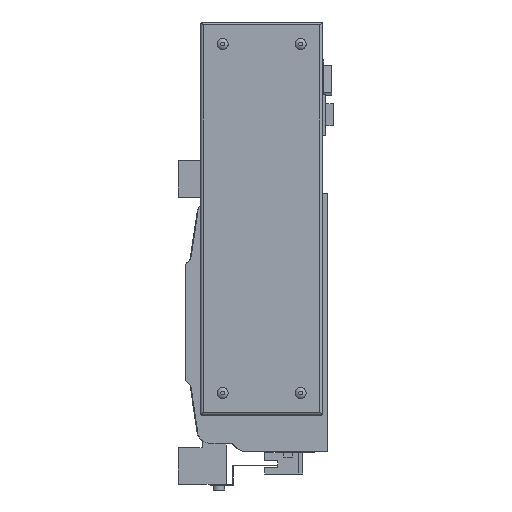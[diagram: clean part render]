
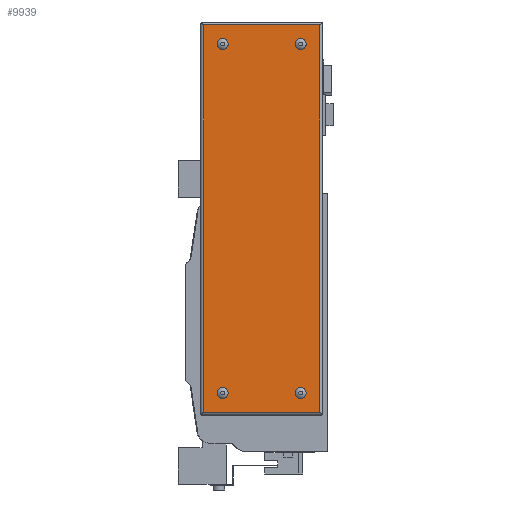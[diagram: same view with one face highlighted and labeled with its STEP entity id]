
A CAD part, left-side view. The second image highlights one B-rep face of the part: STEP entity #9939.
In plain terms, the highlighted planar face has unit normal (-1, 0, 0).
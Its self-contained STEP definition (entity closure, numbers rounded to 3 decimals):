
#287=PLANE('',#10698);
#999=LINE('',#15299,#2089);
#1000=LINE('',#15302,#2090);
#1001=LINE('',#15304,#2091);
#1002=LINE('',#15306,#2092);
#2089=VECTOR('',#12394,1000.);
#2090=VECTOR('',#12395,1000.);
#2091=VECTOR('',#12396,1000.);
#2092=VECTOR('',#12397,1000.);
#3850=ORIENTED_EDGE('',*,*,#6065,.F.);
#3851=ORIENTED_EDGE('',*,*,#6066,.F.);
#3852=ORIENTED_EDGE('',*,*,#6067,.F.);
#3853=ORIENTED_EDGE('',*,*,#6068,.F.);
#3854=ORIENTED_EDGE('',*,*,#6069,.F.);
#3855=ORIENTED_EDGE('',*,*,#6070,.F.);
#3856=ORIENTED_EDGE('',*,*,#6071,.T.);
#3857=ORIENTED_EDGE('',*,*,#6072,.T.);
#6065=EDGE_CURVE('',#7279,#7279,#7939,.F.);
#6066=EDGE_CURVE('',#7280,#7280,#7940,.F.);
#6067=EDGE_CURVE('',#7281,#7281,#7941,.F.);
#6068=EDGE_CURVE('',#7282,#7282,#7942,.F.);
#6069=EDGE_CURVE('',#7283,#7284,#999,.T.);
#6070=EDGE_CURVE('',#7285,#7283,#1000,.T.);
#6071=EDGE_CURVE('',#7285,#7286,#1001,.T.);
#6072=EDGE_CURVE('',#7286,#7284,#1002,.T.);
#7279=VERTEX_POINT('',#15292);
#7280=VERTEX_POINT('',#15294);
#7281=VERTEX_POINT('',#15296);
#7282=VERTEX_POINT('',#15298);
#7283=VERTEX_POINT('',#15300);
#7284=VERTEX_POINT('',#15301);
#7285=VERTEX_POINT('',#15303);
#7286=VERTEX_POINT('',#15305);
#7939=CIRCLE('',#10699,3.7);
#7940=CIRCLE('',#10700,3.7);
#7941=CIRCLE('',#10701,3.7);
#7942=CIRCLE('',#10702,3.7);
#8393=EDGE_LOOP('',(#3850));
#8394=EDGE_LOOP('',(#3851));
#8395=EDGE_LOOP('',(#3852));
#8396=EDGE_LOOP('',(#3853));
#8397=EDGE_LOOP('',(#3854,#3855,#3856,#3857));
#9134=FACE_BOUND('',#8393,.T.);
#9135=FACE_BOUND('',#8394,.T.);
#9136=FACE_BOUND('',#8395,.T.);
#9137=FACE_BOUND('',#8396,.T.);
#9138=FACE_BOUND('',#8397,.T.);
#9939=ADVANCED_FACE('',(#9134,#9135,#9136,#9137,#9138),#287,.F.);
#10698=AXIS2_PLACEMENT_3D('',#15290,#12384,#12385);
#10699=AXIS2_PLACEMENT_3D('',#15291,#12386,#12387);
#10700=AXIS2_PLACEMENT_3D('',#15293,#12388,#12389);
#10701=AXIS2_PLACEMENT_3D('',#15295,#12390,#12391);
#10702=AXIS2_PLACEMENT_3D('',#15297,#12392,#12393);
#12384=DIRECTION('',(1.,0.,0.));
#12385=DIRECTION('',(0.,0.,-1.));
#12386=DIRECTION('',(1.,0.,0.));
#12387=DIRECTION('',(0.,0.,-1.));
#12388=DIRECTION('',(1.,0.,0.));
#12389=DIRECTION('',(0.,0.,-1.));
#12390=DIRECTION('',(1.,0.,0.));
#12391=DIRECTION('',(0.,0.,-1.));
#12392=DIRECTION('',(1.,0.,0.));
#12393=DIRECTION('',(0.,0.,-1.));
#12394=DIRECTION('',(0.,0.,-1.));
#12395=DIRECTION('',(0.,-1.,0.));
#12396=DIRECTION('',(0.,0.,-1.));
#12397=DIRECTION('',(0.,-1.,0.));
#15290=CARTESIAN_POINT('',(-66.,0.,0.));
#15291=CARTESIAN_POINT('',(-66.,18.5,189.));
#15292=CARTESIAN_POINT('',(-66.,18.5,185.3));
#15293=CARTESIAN_POINT('',(-66.,18.5,-48.));
#15294=CARTESIAN_POINT('',(-66.,18.5,-51.7));
#15295=CARTESIAN_POINT('',(-66.,71.5,189.));
#15296=CARTESIAN_POINT('',(-66.,71.5,185.3));
#15297=CARTESIAN_POINT('',(-66.,71.5,-48.));
#15298=CARTESIAN_POINT('',(-66.,71.5,-51.7));
#15299=CARTESIAN_POINT('',(-66.,5.5,267.));
#15300=CARTESIAN_POINT('',(-66.,5.5,202.));
#15301=CARTESIAN_POINT('',(-66.,5.5,-61.));
#15302=CARTESIAN_POINT('',(-66.,267.,202.));
#15303=CARTESIAN_POINT('',(-66.,84.5,202.));
#15304=CARTESIAN_POINT('',(-66.,84.5,267.));
#15305=CARTESIAN_POINT('',(-66.,84.5,-61.));
#15306=CARTESIAN_POINT('',(-66.,267.,-61.));
